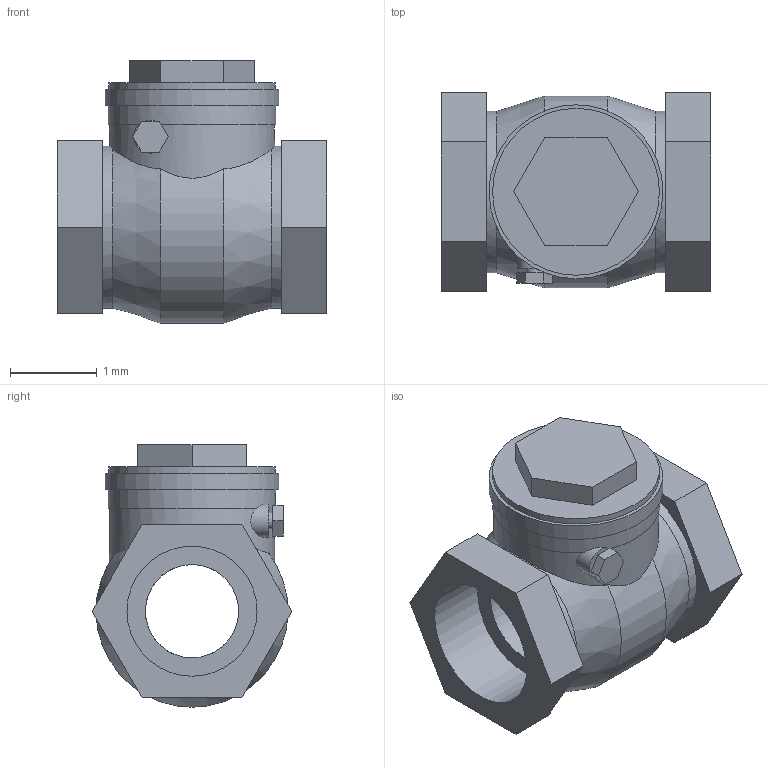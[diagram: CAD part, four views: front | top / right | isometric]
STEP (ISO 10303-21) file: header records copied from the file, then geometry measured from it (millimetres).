
FILE_DESCRIPTION(('Open CASCADE Model'),'2;1');
FILE_NAME('Open CASCADE Shape Model','2022-04-26T15:35:54',('Author'),( 'Open CASCADE'),'Open CASCADE STEP processor 7.3','Open CASCADE 7.3' ,'Unknown');
FILE_SCHEMA(('AUTOMOTIVE_DESIGN { 1 0 10303 214 1 1 1 1 }'));
Length unit declared in the file: millimetre
Products named in the file (1): Open CASCADE STEP translator 7.3 1
Bounding box: 3.11 x 2.31 x 3.03 mm (x, y, z)
Volume: 9.1 mm3; surface area: 50.1 mm2
Topology: 1 solids, 3 shells, 62 faces, 142 edges, 95 vertices
Faces by surface type: plane 40, cylinder 18, cone 4
Full cylindrical faces by diameter (mm): 0.19 x1, 1.075 x1, 1.5 x2, 1.866 x2, 1.905 x1, 1.925 x1, 1.93 x1, 2.005 x1
Entity records: 4664 total; most frequent: CARTESIAN_POINT 1806, DIRECTION 509, LINE 301, VECTOR 301, ORIENTED_EDGE 284, PCURVE 284, DEFINITIONAL_REPRESENTATION 284, EDGE_CURVE 142
